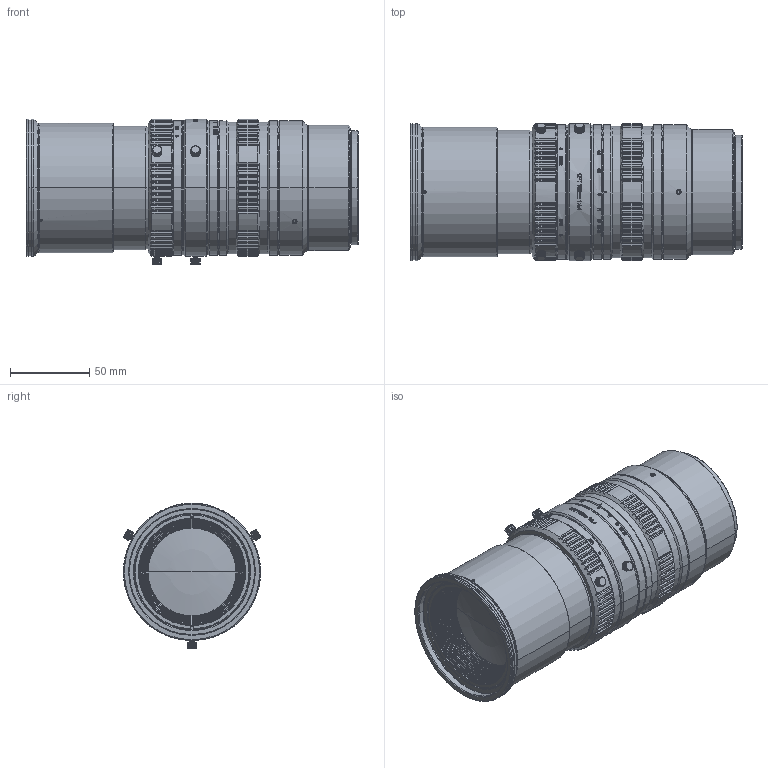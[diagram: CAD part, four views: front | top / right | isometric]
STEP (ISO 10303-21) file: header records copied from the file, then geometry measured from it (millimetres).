
FILE_DESCRIPTION((''),'2;1');
FILE_NAME('M10044-151M-V1_0','2024-05-18T13:33:07',('admin'),(''),'CREO PARAMETRIC BY PTC INC, 2020354','CREO PARAMETRIC BY PTC INC, 2020354','');
FILE_SCHEMA(('AUTOMOTIVE_DESIGN { 1 0 10303 214 1 1 1 1 }'));
Length unit declared in the file: millimetre
Products named in the file (1): M10044-151M-V1_0
Bounding box: 209.5 x 86.64 x 91.85 mm (x, y, z)
Volume: 1010104.7 mm3; surface area: 100156.7 mm2
Topology: 1 solids, 3 shells, 2592 faces, 7279 edges, 4810 vertices
Faces by surface type: cylinder 1042, plane 863, cone 312, bspline 298, extrusion 65, torus 8, sphere 4
Entity records: 98271 total; most frequent: CARTESIAN_POINT 34973, ORIENTED_EDGE 14550, DIRECTION 11363, EDGE_CURVE 7275, VERTEX_POINT 4810, AXIS2_PLACEMENT_3D 4159, VECTOR 3045, LINE 2980
